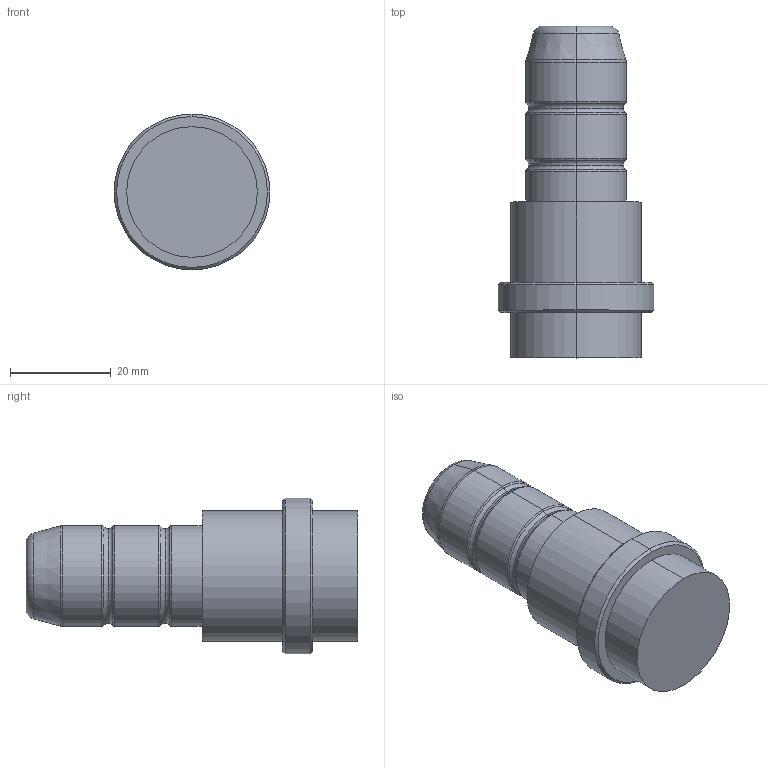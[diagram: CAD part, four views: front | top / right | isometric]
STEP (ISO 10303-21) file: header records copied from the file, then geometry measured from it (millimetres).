
FILE_DESCRIPTION (( 'STEP AP214' ), '1' );
FILE_NAME ('BR00 20x22x35.STEP', '2019-05-15T09:30:30', ( 'August' ), ( '' ), 'SwSTEP 2.0', 'SolidWorks 2018', '' );
FILE_SCHEMA (( 'AUTOMOTIVE_DESIGN' ));
Length unit declared in the file: millimetre
Products named in the file (1): BR00 20x22x35
Bounding box: 31 x 66 x 31 mm (x, y, z)
Volume: 28253.3 mm3; surface area: 6154.4 mm2
Topology: 1 solids, 1 shells, 43 faces, 84 edges, 46 vertices
Faces by surface type: torus 20, cylinder 12, cone 6, plane 5
Entity records: 1138 total; most frequent: DIRECTION 238, CARTESIAN_POINT 174, ORIENTED_EDGE 168, AXIS2_PLACEMENT_3D 110, EDGE_CURVE 84, CIRCLE 66, VERTEX_POINT 46, EDGE_LOOP 46
